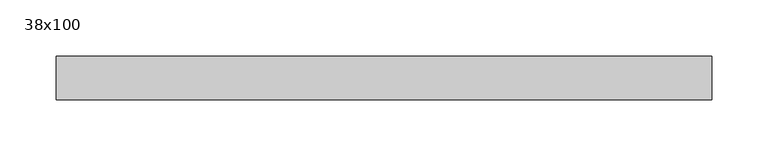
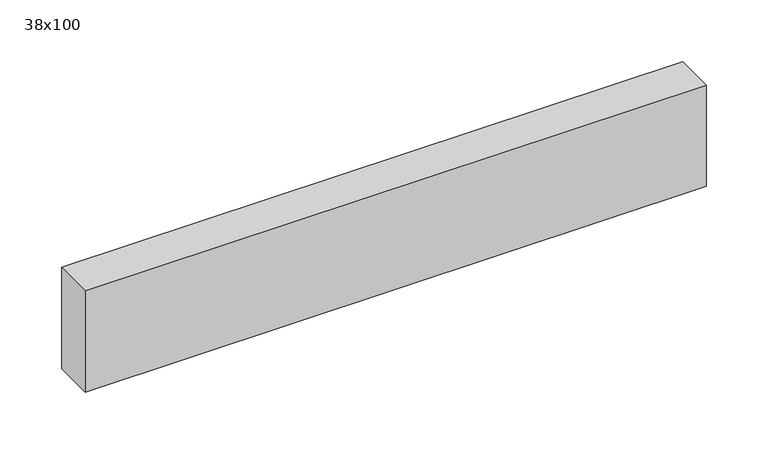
"""IFC4 building model written with IfcOpenShell, lengths in millimetres: beam geometry, Poutre - Bois de construction de dimensions courantes : 38x100."""

from ifc_helpers import new_model, si_unit, frame, origin, place, context, project, spatial, polyline, outline, extrude, source, transform, mapped, element, save


def beam_38x100_35ac4b86(model_context):
    return source(origin(), model_context, "Body", "SweptSolid", [
        extrude(outline(polyline([(290.0, 19.05), (290.0, -19.05), (-290.0, -19.05), (-290.0, 19.05), (290.0, 19.05)])), frame((0.0, 0.0, -50.0), z_axis=(0.0, 0.0, 1.0), x_axis=(1.0, 0.0, 0.0)), (0.0, 0.0, 1.0), 100.0),
    ])


if __name__ == "__main__":
    model = new_model("IFC4")
    model_context = context("Model", 3, world=origin())
    ifc_project = project(units=[si_unit("LENGTHUNIT", "METRE", prefix="MILLI")], contexts=[model_context])
    site = spatial("IfcSite", under=ifc_project)
    building = spatial("IfcBuilding", under=site)
    placement = place(None, origin())
    beam_38x100_shape = beam_38x100_35ac4b86(model_context)
    element("IfcBeam", 1, ObjectType="Poutre - Bois de construction de dimensions courantes : 38x100", at=placement, inside=building, context=model_context, shape_type="MappedRepresentation", body=[
        mapped(beam_38x100_shape, transform((0.0, 0.0, 0.0), x_axis=(1.0, 0.0, 0.0), y_axis=(0.0, 1.0, 0.0), z_axis=(0.0, 0.0, 1.0))),
    ])
    save(model, "model.ifc")
